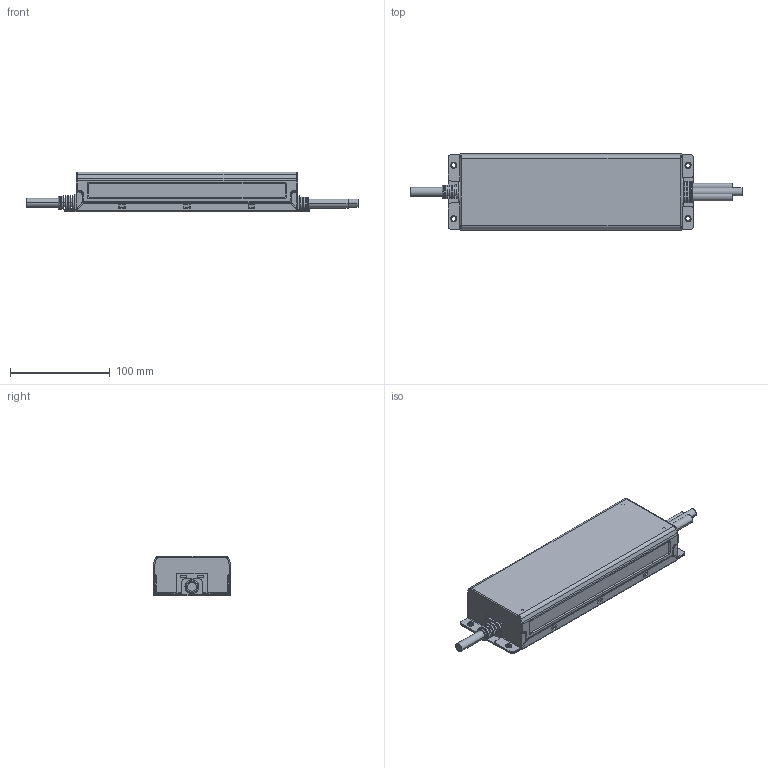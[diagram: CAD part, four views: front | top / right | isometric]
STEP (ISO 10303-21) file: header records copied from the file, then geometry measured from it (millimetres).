
FILE_DESCRIPTION((''),'2;1');
FILE_NAME('ELGC-300_ASM_ASM','2020-04-21T15:01:49',('shalinice'),(''),'CREO PARAMETRIC BY PTC INC, 2016390','CREO PARAMETRIC BY PTC INC, 2016390','');
FILE_SCHEMA(('AUTOMOTIVE_DESIGN { 1 0 10303 214 1 1 1 1 }'));
Length unit declared in the file: millimetre
Products named in the file (12): 266C-D_1; CASE_1_ASM_2_ASM; OP_1_2_2; IP_1_1_2; OP2_1; WIRE_ASM_1_ASM; ELGC-300-C_ASM_1_ASM; ELGC-300A-T_2; VRZHU_2; VRSAI_2; ELGC-320-2_ASM_2_ASM; ELGC-300_ASM_ASM
Assembly tree (11 placements, depth 5):
  ELGC-300_ASM_ASM
    ELGC-320-2_ASM_2_ASM
      ELGC-300-C_ASM_1_ASM
        CASE_1_ASM_2_ASM
          266C-D_1
        WIRE_ASM_1_ASM
          OP_1_2_2
          IP_1_1_2
          OP2_1
      ELGC-300A-T_2
      VRZHU_2
      VRSAI_2
Bounding box: 332.9 x 77.13 x 39.5 mm (x, y, z)
Volume: 95579.8 mm3; surface area: 142423.4 mm2
Topology: 7 solids, 7 shells, 1275 faces, 3380 edges, 2194 vertices
Faces by surface type: plane 781, cylinder 351, torus 85, bspline 36, cone 20, sphere 2
Entity records: 45901 total; most frequent: CARTESIAN_POINT 13183, ORIENTED_EDGE 6756, DIRECTION 6676, EDGE_CURVE 3378, VECTOR 2300, LINE 2300, VERTEX_POINT 2194, AXIS2_PLACEMENT_3D 2188
